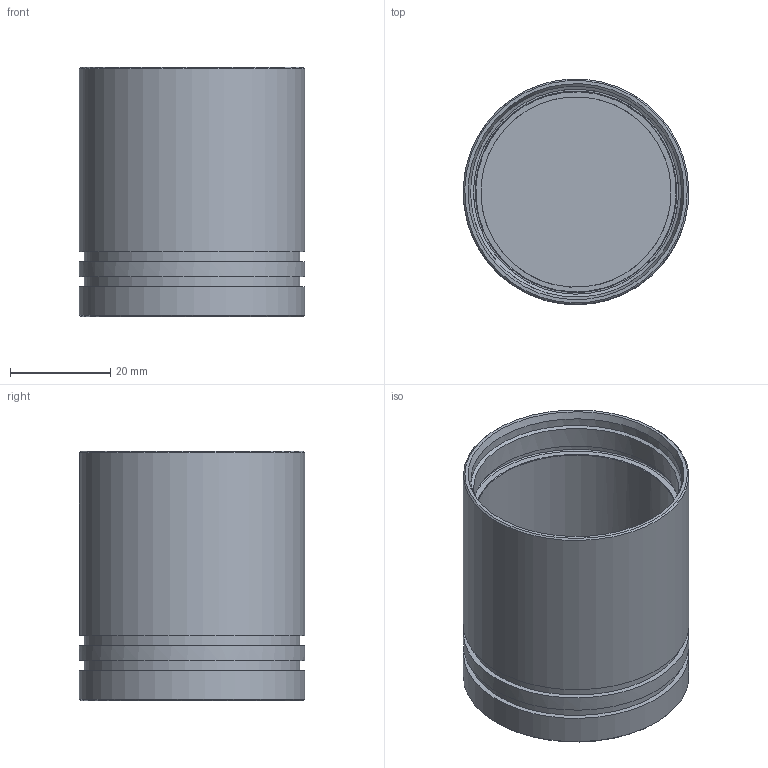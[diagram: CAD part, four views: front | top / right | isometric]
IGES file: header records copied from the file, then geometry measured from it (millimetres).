
Global section: file name: 0H153-13561_LPT Vxx-G37.5 (VISOR 2 Übergehäuse)_ohne Gewinde; native system: Autodesk Inventor 2018; preprocessor: unknown; author: ss; date: 20190123.103428; units: millimetre
Bounding box: 44.97 x 44.95 x 49.77 mm (x, y, z)
Volume: 18840.8 mm3; surface area: 17939.2 mm2
Topology: 2 solids, 2 shells, 37 faces, 79 edges, 54 vertices
Faces by surface type: bspline 37
